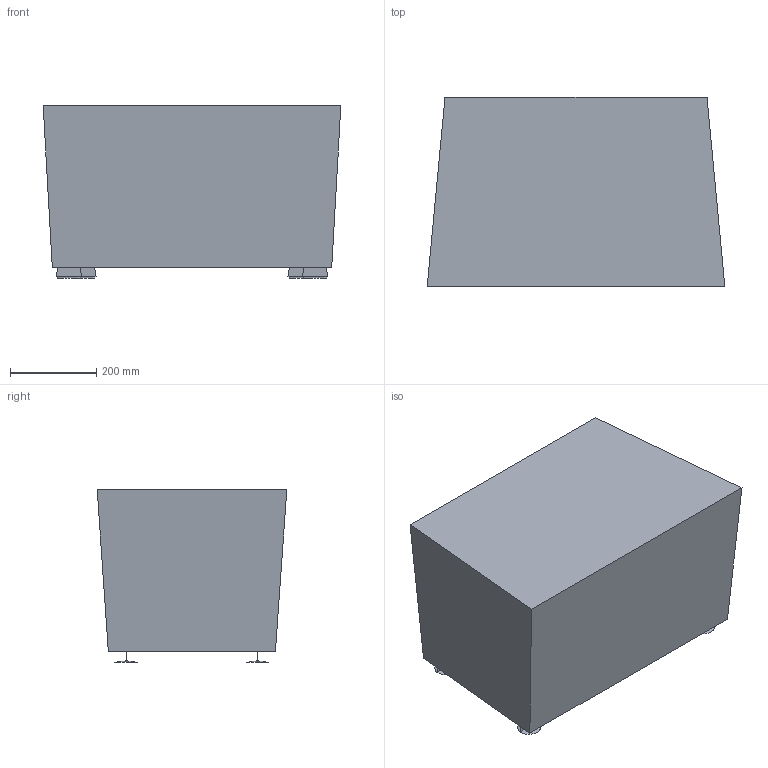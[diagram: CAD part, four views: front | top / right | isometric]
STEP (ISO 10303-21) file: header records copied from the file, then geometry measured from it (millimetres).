
FILE_DESCRIPTION(/* description */ (''),/* implementation_level */ '2;1');
FILE_NAME(/* name */ 'CLUBPO~1',/* time_stamp */ '2017-03-10T19:42:47+01:00',/* author */ (''),/* organization */ (''),/* preprocessor_version */ 'ST-DEVELOPER v15',/* originating_system */ '',/* authorisation */ '');
FILE_SCHEMA (('CONFIG_CONTROL_DESIGN'));
Length unit declared in the file: millimetre
Products named in the file (1): Document
Bounding box: 690.81 x 440.11 x 400.43 mm (x, y, z)
Surface area: 1511952.1 mm2
Topology: 1 solids, 5 shells, 26 faces, 56 edges, 33 vertices
Faces by surface type: bspline 22, plane 4
Entity records: 2813 total; most frequent: CARTESIAN_POINT 2422, ORIENTED_EDGE 96, EDGE_CURVE 52, VERTEX_POINT 32, ADVANCED_FACE 26, FACE_OUTER_BOUND 26, EDGE_LOOP 26, DIRECTION 15
